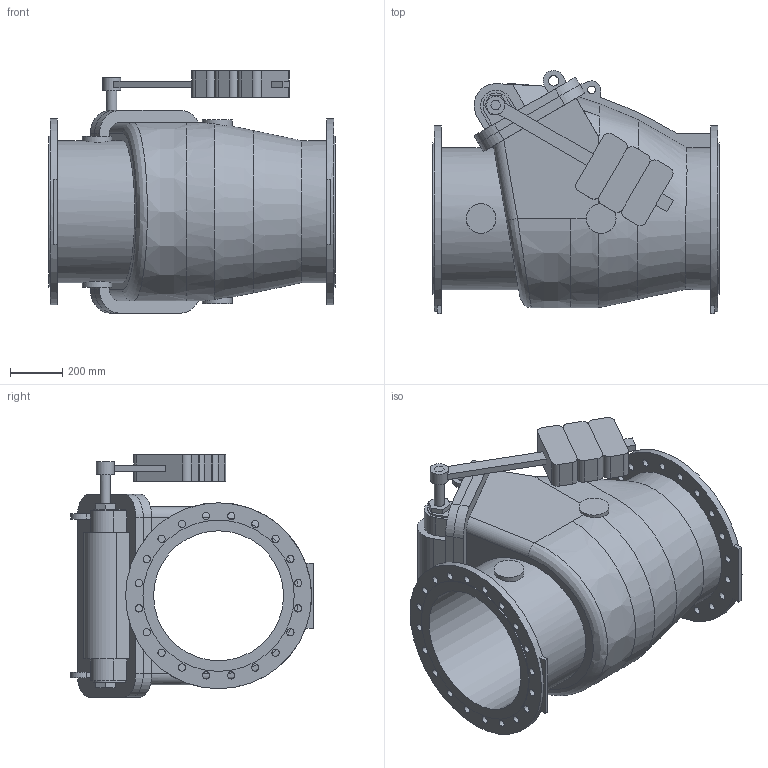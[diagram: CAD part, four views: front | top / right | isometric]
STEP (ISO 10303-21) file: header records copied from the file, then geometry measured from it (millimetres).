
FILE_DESCRIPTION (( 'STEP AP203' ), '1' );
FILE_NAME ('O_41_36_DN500_X0XXX_AA1.step', '2018-08-16T08:40:16', ( 'Windows User' ), ( 'AVK' ), 'SwSTEP 2.0', 'SolidWorks 2012', '' );
FILE_SCHEMA (( 'CONFIG_CONTROL_DESIGN' ));
Length unit declared in the file: millimetre
Products named in the file (1): O_41_36_DN500_X0XXX_AA1
Bounding box: 1100 x 934.56 x 932 mm (x, y, z)
Volume: 219861792.5 mm3; surface area: 6068769.2 mm2
Topology: 1 solids, 1 shells, 250 faces, 701 edges, 473 vertices
Faces by surface type: plane 150, cylinder 89, bspline 11
Full cylindrical faces by diameter (mm): 28 x40, 30 x1, 40 x3, 70 x1, 114 x4, 500 x1, 546 x1, 582 x2, 715 x2
Entity records: 30171 total; most frequent: CARTESIAN_POINT 23855, ORIENTED_EDGE 1232, DIRECTION 1212, EDGE_CURVE 616, VERTEX_POINT 444, AXIS2_PLACEMENT_3D 423, EDGE_LOOP 416, LINE 366
